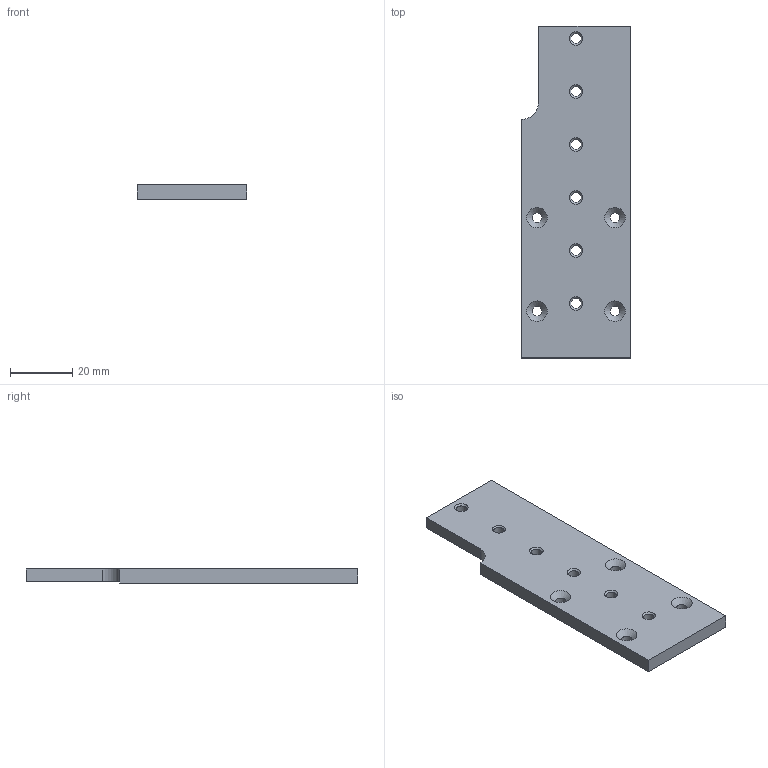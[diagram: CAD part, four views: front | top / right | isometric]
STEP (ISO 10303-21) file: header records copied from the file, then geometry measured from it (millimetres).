
FILE_DESCRIPTION(/* description */ ('Unknown'),/* implementation_level */ '2;1');
FILE_NAME(/* name */ 'Plate down',/* time_stamp */ '2020-08-15T14:32:53+03:00',/* author */ ('Unknown'),/* organization */ ('Unknown'),/* preprocessor_version */ 'ST-DEVELOPER v16.7',/* originating_system */ 'Solid Edge',/* authorisation */ 'Unknown');
FILE_SCHEMA (('AUTOMOTIVE_DESIGN {1 0 10303 214 3 1 1}'));
Length unit declared in the file: millimetre
Products named in the file (1): Plate down
Bounding box: 35 x 106.5 x 4.5 mm (x, y, z)
Volume: 15160.3 mm3; surface area: 8614.3 mm2
Topology: 1 solids, 1 shells, 30 faces, 83 edges, 55 vertices
Faces by surface type: cylinder 11, cone 10, plane 9
Full cylindrical faces by diameter (mm): 3.2 x4, 3.3 x6
Entity records: 1055 total; most frequent: DIRECTION 147, CARTESIAN_POINT 129, ORIENTED_EDGE 106, EDGE_LOOP 70, FACE_BOUND 70, AXIS2_PLACEMENT_3D 63, EDGE_CURVE 53, VERTEX_POINT 45
